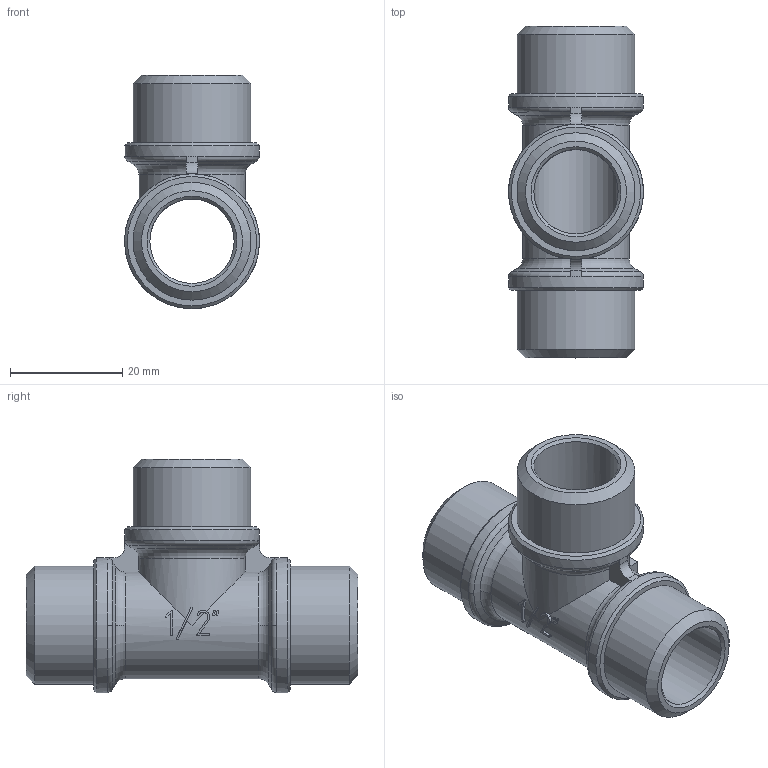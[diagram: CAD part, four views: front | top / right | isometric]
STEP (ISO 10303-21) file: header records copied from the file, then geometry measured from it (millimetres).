
FILE_DESCRIPTION(('STEP AP203'), '1');
FILE_NAME('ÂÐ.752242.001 - VTr.131.N.0004 - Ôèò. ðåçüá. òðîé', '2024-06-25T06:38:11', ('Boss'), (''), 'C3D Converter', 'C3D Toolkit', '');
FILE_SCHEMA(('CONFIG_CONTROL_DESIGN'));
Length unit declared in the file: millimetre
Products named in the file (1): ВР.752242.001
Bounding box: 24 x 59 x 41.5 mm (x, y, z)
Volume: 12286.7 mm3; surface area: 9582.5 mm2
Topology: 1 solids, 1 shells, 161 faces, 435 edges, 283 vertices
Faces by surface type: extrusion 57, plane 56, cylinder 21, torus 14, cone 13
Full cylindrical faces by diameter (mm): 15 x2, 20.955 x3, 24 x3
Entity records: 6627 total; most frequent: CARTESIAN_POINT 2952, ORIENTED_EDGE 834, DIRECTION 582, EDGE_CURVE 417, VERTEX_POINT 283, VECTOR 204, B_SPLINE_CURVE_WITH_KNOTS 198, EDGE_LOOP 190
